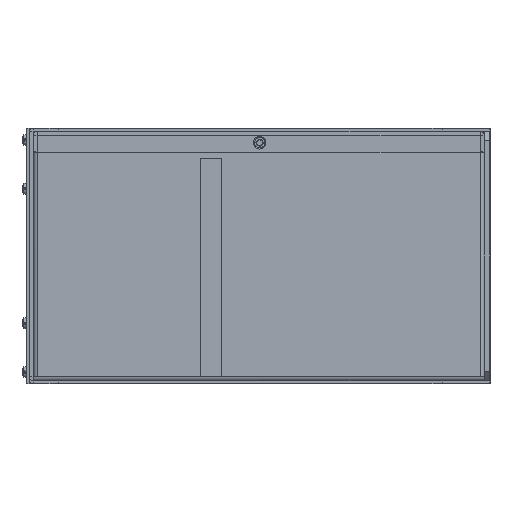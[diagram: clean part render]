
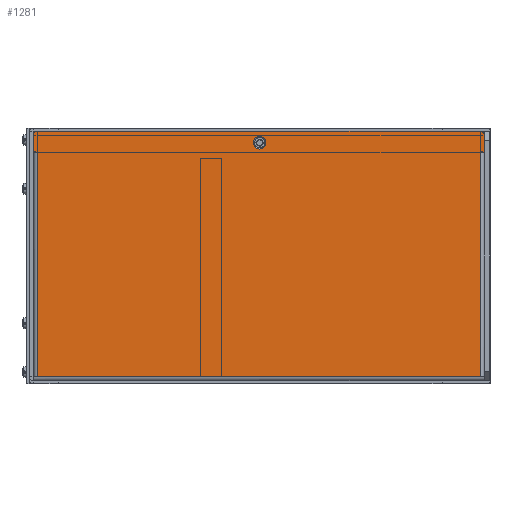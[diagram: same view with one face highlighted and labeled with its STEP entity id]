
A CAD part, left-side view. The second image highlights one B-rep face of the part: STEP entity #1281.
In plain terms, the highlighted planar face has unit normal (-1, 0, 0).
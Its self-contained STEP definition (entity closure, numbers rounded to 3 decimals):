
#1281=ADVANCED_FACE('',(#3908,#3909),#3910,.F.);
#3908=FACE_OUTER_BOUND('',#7593,.T.);
#3909=FACE_BOUND('',#7594,.T.);
#3910=PLANE('',#7595);
#7593=EDGE_LOOP('',(#15723,#15724,#15725,#15726,#15727,#15728,#15729,#15730,#15731,#15732,#15733,#15734));
#7594=EDGE_LOOP('',(#15735,#15736));
#7595=AXIS2_PLACEMENT_3D('',#15737,#15738,#15739);
#15723=ORIENTED_EDGE('',*,*,#25171,.T.);
#15724=ORIENTED_EDGE('',*,*,#25160,.F.);
#15725=ORIENTED_EDGE('',*,*,#25158,.F.);
#15726=ORIENTED_EDGE('',*,*,#25138,.F.);
#15727=ORIENTED_EDGE('',*,*,#25173,.F.);
#15728=ORIENTED_EDGE('',*,*,#25174,.F.);
#15729=ORIENTED_EDGE('',*,*,#25175,.F.);
#15730=ORIENTED_EDGE('',*,*,#25176,.F.);
#15731=ORIENTED_EDGE('',*,*,#25177,.T.);
#15732=ORIENTED_EDGE('',*,*,#25178,.F.);
#15733=ORIENTED_EDGE('',*,*,#25179,.F.);
#15734=ORIENTED_EDGE('',*,*,#25172,.F.);
#15735=ORIENTED_EDGE('',*,*,#25180,.T.);
#15736=ORIENTED_EDGE('',*,*,#25181,.T.);
#15737=CARTESIAN_POINT('',(-220.004,26.038,-63.));
#15738=DIRECTION('',(1.0,0.0,0.0));
#15739=DIRECTION('',(0.0,1.0,0.0));
#25138=EDGE_CURVE('',#30666,#30668,#30669,.T.);
#25158=EDGE_CURVE('',#30668,#30703,#30704,.T.);
#25160=EDGE_CURVE('',#30703,#30706,#30707,.T.);
#25171=EDGE_CURVE('',#30721,#30706,#30722,.T.);
#25172=EDGE_CURVE('',#30721,#30719,#30723,.T.);
#25173=EDGE_CURVE('',#30724,#30666,#30725,.T.);
#25174=EDGE_CURVE('',#30726,#30724,#30727,.T.);
#25175=EDGE_CURVE('',#30728,#30726,#30729,.T.);
#25176=EDGE_CURVE('',#30730,#30728,#30731,.T.);
#25177=EDGE_CURVE('',#30730,#30732,#30733,.T.);
#25178=EDGE_CURVE('',#30734,#30732,#30735,.T.);
#25179=EDGE_CURVE('',#30719,#30734,#30736,.T.);
#25180=EDGE_CURVE('',#30737,#30738,#30739,.T.);
#25181=EDGE_CURVE('',#30738,#30737,#30740,.T.);
#30666=VERTEX_POINT('',#40049);
#30668=VERTEX_POINT('',#40052);
#30669=LINE('',#40053,#40054);
#30703=VERTEX_POINT('',#40101);
#30704=LINE('',#40102,#40103);
#30706=VERTEX_POINT('',#40106);
#30707=LINE('',#40107,#40108);
#30719=VERTEX_POINT('',#40131);
#30721=VERTEX_POINT('',#40139);
#30722=B_SPLINE_CURVE_WITH_KNOTS('',3,(#40140,#40141,#40142,#40143,#40144,#40145),.UNSPECIFIED.,.F.,.F.,(4,1,1,4),(0.0,0.333,0.667,1.0),.UNSPECIFIED.);
#30723=LINE('',#40146,#40147);
#30724=VERTEX_POINT('',#40148);
#30725=LINE('',#40149,#40150);
#30726=VERTEX_POINT('',#40151);
#30727=LINE('',#40152,#40153);
#30728=VERTEX_POINT('',#40154);
#30729=LINE('',#40155,#40156);
#30730=VERTEX_POINT('',#40157);
#30731=LINE('',#40158,#40159);
#30732=VERTEX_POINT('',#40160);
#30733=B_SPLINE_CURVE_WITH_KNOTS('',3,(#40161,#40162,#40163,#40164,#40165,#40166),.UNSPECIFIED.,.F.,.F.,(4,1,1,4),(0.0,0.333,0.667,1.0),.UNSPECIFIED.);
#30734=VERTEX_POINT('',#40167);
#30735=LINE('',#40168,#40169);
#30736=LINE('',#40170,#40171);
#30737=VERTEX_POINT('',#40172);
#30738=VERTEX_POINT('',#40173);
#30739=CIRCLE('',#40174,3.25);
#30740=CIRCLE('',#40175,3.25);
#40049=CARTESIAN_POINT('',(-220.004,-92.462,65.));
#40052=CARTESIAN_POINT('',(-220.004,-92.462,54.2));
#40053=CARTESIAN_POINT('',(-220.004,-92.462,65.));
#40054=VECTOR('',#48697,10.8);
#40101=CARTESIAN_POINT('',(-220.004,-90.462,54.2));
#40102=CARTESIAN_POINT('',(-220.004,-92.462,54.2));
#40103=VECTOR('',#48729,2.0);
#40106=CARTESIAN_POINT('',(-220.003,-90.462,54.));
#40107=CARTESIAN_POINT('',(-220.004,-90.462,54.2));
#40108=VECTOR('',#48731,0.2);
#40131=CARTESIAN_POINT('',(-220.004,-90.362,-62.9));
#40139=CARTESIAN_POINT('',(-220.004,-90.362,54.));
#40140=CARTESIAN_POINT('',(-220.004,-90.362,54.));
#40141=CARTESIAN_POINT('',(-220.004,-90.373,54.));
#40142=CARTESIAN_POINT('',(-220.004,-90.395,54.));
#40143=CARTESIAN_POINT('',(-220.005,-90.428,54.));
#40144=CARTESIAN_POINT('',(-220.003,-90.451,54.));
#40145=CARTESIAN_POINT('',(-220.003,-90.462,54.));
#40146=CARTESIAN_POINT('',(-220.004,-90.362,54.));
#40147=VECTOR('',#48745,116.9);
#40148=CARTESIAN_POINT('',(-220.004,142.438,65.));
#40149=CARTESIAN_POINT('',(-220.004,142.438,65.));
#40150=VECTOR('',#48746,234.9);
#40151=CARTESIAN_POINT('',(-220.004,142.438,54.2));
#40152=CARTESIAN_POINT('',(-220.004,142.438,54.2));
#40153=VECTOR('',#48747,10.8);
#40154=CARTESIAN_POINT('',(-220.004,140.438,54.2));
#40155=CARTESIAN_POINT('',(-220.004,140.438,54.2));
#40156=VECTOR('',#48748,2.0);
#40157=CARTESIAN_POINT('',(-220.003,140.438,54.));
#40158=CARTESIAN_POINT('',(-220.003,140.438,54.));
#40159=VECTOR('',#48749,0.2);
#40160=CARTESIAN_POINT('',(-220.004,140.338,54.));
#40161=CARTESIAN_POINT('',(-220.003,140.438,54.));
#40162=CARTESIAN_POINT('',(-220.003,140.427,54.));
#40163=CARTESIAN_POINT('',(-220.005,140.405,54.));
#40164=CARTESIAN_POINT('',(-220.004,140.372,54.));
#40165=CARTESIAN_POINT('',(-220.004,140.349,54.));
#40166=CARTESIAN_POINT('',(-220.004,140.338,54.));
#40167=CARTESIAN_POINT('',(-220.004,140.338,-62.9));
#40168=CARTESIAN_POINT('',(-220.004,140.338,-62.9));
#40169=VECTOR('',#48750,116.9);
#40170=CARTESIAN_POINT('',(-220.004,-90.362,-62.9));
#40171=VECTOR('',#48751,230.7);
#40172=CARTESIAN_POINT('',(-220.004,24.538,55.75));
#40173=CARTESIAN_POINT('',(-220.004,24.538,62.25));
#40174=AXIS2_PLACEMENT_3D('',#48752,#48753,#48754);
#40175=AXIS2_PLACEMENT_3D('',#48755,#48756,#48757);
#48697=DIRECTION('',(0.0,0.0,-1.0));
#48729=DIRECTION('',(0.,1.0,0.0));
#48731=DIRECTION('',(0.006,0.0,-1.));
#48745=DIRECTION('',(0.0,0.0,-1.0));
#48746=DIRECTION('',(0.0,-1.0,0.0));
#48747=DIRECTION('',(0.0,0.0,1.0));
#48748=DIRECTION('',(0.,1.0,0.));
#48749=DIRECTION('',(-0.006,0.0,1.));
#48750=DIRECTION('',(0.0,0.0,1.0));
#48751=DIRECTION('',(0.0,1.0,0.0));
#48752=CARTESIAN_POINT('',(-220.004,24.538,59.));
#48753=DIRECTION('',(1.0,0.0,0.));
#48754=DIRECTION('',(0.,0.0,-1.0));
#48755=CARTESIAN_POINT('',(-220.004,24.538,59.));
#48756=DIRECTION('',(1.0,0.0,-0.0));
#48757=DIRECTION('',(0.0,0.0,1.0));
